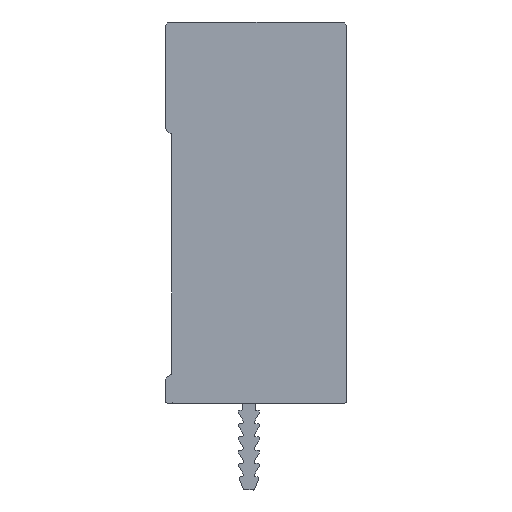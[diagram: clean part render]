
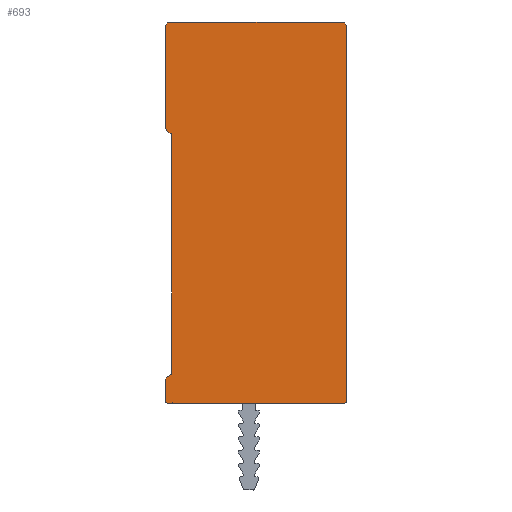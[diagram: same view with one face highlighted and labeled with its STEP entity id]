
A CAD part, left-side view. The second image highlights one B-rep face of the part: STEP entity #693.
In plain terms, the highlighted planar face has unit normal (-1, 0, 0).
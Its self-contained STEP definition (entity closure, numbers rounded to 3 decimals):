
#659 = VERTEX_POINT( '', #1926 );
#661 = VERTEX_POINT( '', #1928 );
#685 = EDGE_CURVE( '', #661, #877, #1955, .T. );
#693 = ADVANCED_FACE( '', ( #1963 ), #1964, .F. );
#711 = EDGE_CURVE( '', #909, #661, #1983, .T. );
#745 = EDGE_CURVE( '', #1227, #659, #2020, .T. );
#757 = VERTEX_POINT( '', #2032 );
#819 = VERTEX_POINT( '', #2100 );
#831 = EDGE_CURVE( '', #1085, #1227, #2113, .T. );
#861 = EDGE_CURVE( '', #819, #1525, #2146, .T. );
#877 = VERTEX_POINT( '', #2162 );
#895 = EDGE_CURVE( '', #1033, #909, #2181, .T. );
#909 = VERTEX_POINT( '', #2195 );
#929 = EDGE_CURVE( '', #1037, #1165, #2216, .T. );
#1033 = VERTEX_POINT( '', #2330 );
#1037 = VERTEX_POINT( '', #2335 );
#1059 = EDGE_CURVE( '', #1457, #1085, #2360, .T. );
#1085 = VERTEX_POINT( '', #2387 );
#1101 = EDGE_CURVE( '', #1165, #757, #2404, .T. );
#1165 = VERTEX_POINT( '', #2473 );
#1215 = EDGE_CURVE( '', #1781, #1037, #2525, .T. );
#1227 = VERTEX_POINT( '', #2538 );
#1291 = EDGE_CURVE( '', #1587, #1457, #2609, .T. );
#1321 = VERTEX_POINT( '', #2640 );
#1389 = EDGE_CURVE( '', #659, #1781, #2714, .T. );
#1405 = EDGE_CURVE( '', #1321, #819, #2730, .T. );
#1457 = VERTEX_POINT( '', #2784 );
#1525 = VERTEX_POINT( '', #2860 );
#1587 = VERTEX_POINT( '', #2928 );
#1691 = EDGE_CURVE( '', #757, #1321, #3041, .T. );
#1771 = EDGE_CURVE( '', #1525, #1033, #3129, .T. );
#1781 = VERTEX_POINT( '', #3140 );
#1825 = EDGE_CURVE( '', #877, #1587, #3186, .T. );
#1926 = CARTESIAN_POINT( '', ( 0., -11.75, -1.3 ) );
#1928 = CARTESIAN_POINT( '', ( 0., 9.35, 31.006 ) );
#1955 = CIRCLE( '', #3335, 0.8 );
#1963 = FACE_OUTER_BOUND( '', #3346, .T. );
#1964 = PLANE( '', #3347 );
#1983 = LINE( '', #3378, #3379 );
#2020 = LINE( '', #3425, #3426 );
#2032 = CARTESIAN_POINT( '', ( 0., 9.3, -1.5 ) );
#2100 = CARTESIAN_POINT( '', ( 0., 10.05, -1.3 ) );
#2113 = CIRCLE( '', #3548, 0.5 );
#2146 = LINE( '', #3593, #3594 );
#2162 = CARTESIAN_POINT( '', ( 0., 10.05, 31.8 ) );
#2181 = LINE( '', #3642, #3643 );
#2195 = CARTESIAN_POINT( '', ( 0., 9.35, 1.99 ) );
#2216 = CIRCLE( '', #3691, 0.2 );
#2330 = CARTESIAN_POINT( '', ( 0., 9.837, 1.649 ) );
#2335 = CARTESIAN_POINT( '', ( 0., 9.15, -1.5 ) );
#2360 = LINE( '', #3877, #3878 );
#2387 = CARTESIAN_POINT( '', ( 0., -11.25, 44.5 ) );
#2404 = CIRCLE( '', #3939, 0.2 );
#2473 = CARTESIAN_POINT( '', ( 0., 9.225, -1.485 ) );
#2525 = LINE( '', #4110, #4111 );
#2538 = CARTESIAN_POINT( '', ( 0., -11.75, 44. ) );
#2609 = CIRCLE( '', #4222, 0.5 );
#2640 = CARTESIAN_POINT( '', ( 0., 9.85, -1.5 ) );
#2714 = CIRCLE( '', #4372, 0.2 );
#2730 = CIRCLE( '', #4398, 0.2 );
#2784 = CARTESIAN_POINT( '', ( 0., 9.55, 44.5 ) );
#2860 = CARTESIAN_POINT( '', ( 0., 10.05, 1.24 ) );
#2928 = CARTESIAN_POINT( '', ( 0., 10.05, 44. ) );
#3041 = LINE( '', #4829, #4830 );
#3129 = CIRCLE( '', #4951, 0.5 );
#3140 = CARTESIAN_POINT( '', ( 0., -11.55, -1.5 ) );
#3186 = LINE( '', #5036, #5037 );
#3335 = AXIS2_PLACEMENT_3D( '', #5194, #5195, #5196 );
#3346 = EDGE_LOOP( '', ( #5202, #5203, #5204, #5205, #5206, #5207, #5208, #5209, #5210, #5211, #5212, #5213, #5214, #5215, #5216, #5217 ) );
#3347 = AXIS2_PLACEMENT_3D( '', #5218, #5219, #5220 );
#3378 = CARTESIAN_POINT( '', ( 0., 9.35, -1.3 ) );
#3379 = VECTOR( '', #5237, 1. );
#3425 = CARTESIAN_POINT( '', ( 0., -11.75, 44. ) );
#3426 = VECTOR( '', #5276, 1. );
#3548 = AXIS2_PLACEMENT_3D( '', #5382, #5383, #5384 );
#3593 = CARTESIAN_POINT( '', ( 0., 10.05, -1.3 ) );
#3594 = VECTOR( '', #5430, 1. );
#3642 = CARTESIAN_POINT( '', ( 0., 9.837, 1.649 ) );
#3643 = VECTOR( '', #5450, 1. );
#3691 = AXIS2_PLACEMENT_3D( '', #5470, #5471, #5472 );
#3877 = CARTESIAN_POINT( '', ( 0., 9.55, 44.5 ) );
#3878 = VECTOR( '', #5638, 1. );
#3939 = AXIS2_PLACEMENT_3D( '', #5678, #5679, #5680 );
#4110 = CARTESIAN_POINT( '', ( 0., -11.55, -1.5 ) );
#4111 = VECTOR( '', #5788, 1. );
#4222 = AXIS2_PLACEMENT_3D( '', #5890, #5891, #5892 );
#4372 = AXIS2_PLACEMENT_3D( '', #6001, #6002, #6003 );
#4398 = AXIS2_PLACEMENT_3D( '', #6011, #6012, #6013 );
#4829 = CARTESIAN_POINT( '', ( 0., 9.3, -1.5 ) );
#4830 = VECTOR( '', #6399, 1. );
#4951 = AXIS2_PLACEMENT_3D( '', #6551, #6552, #6553 );
#5036 = CARTESIAN_POINT( '', ( 0., 10.05, 31.8 ) );
#5037 = VECTOR( '', #6599, 1. );
#5194 = CARTESIAN_POINT( '', ( 0., 9.25, 31.8 ) );
#5195 = DIRECTION( '', ( 1., 0., 0. ) );
#5196 = DIRECTION( '', ( 0., -0.985, -0.174 ) );
#5202 = ORIENTED_EDGE( '', *, *, #895, .F. );
#5203 = ORIENTED_EDGE( '', *, *, #1771, .F. );
#5204 = ORIENTED_EDGE( '', *, *, #861, .F. );
#5205 = ORIENTED_EDGE( '', *, *, #1405, .F. );
#5206 = ORIENTED_EDGE( '', *, *, #1691, .F. );
#5207 = ORIENTED_EDGE( '', *, *, #1101, .F. );
#5208 = ORIENTED_EDGE( '', *, *, #929, .F. );
#5209 = ORIENTED_EDGE( '', *, *, #1215, .F. );
#5210 = ORIENTED_EDGE( '', *, *, #1389, .F. );
#5211 = ORIENTED_EDGE( '', *, *, #745, .F. );
#5212 = ORIENTED_EDGE( '', *, *, #831, .F. );
#5213 = ORIENTED_EDGE( '', *, *, #1059, .F. );
#5214 = ORIENTED_EDGE( '', *, *, #1291, .F. );
#5215 = ORIENTED_EDGE( '', *, *, #1825, .F. );
#5216 = ORIENTED_EDGE( '', *, *, #685, .F. );
#5217 = ORIENTED_EDGE( '', *, *, #711, .F. );
#5218 = CARTESIAN_POINT( '', ( 0., 0., 0. ) );
#5219 = DIRECTION( '', ( 1., 0., 0. ) );
#5220 = DIRECTION( '', ( 0., 0., -1. ) );
#5237 = DIRECTION( '', ( 0., 0., 1. ) );
#5276 = DIRECTION( '', ( 0., 0., -1. ) );
#5382 = CARTESIAN_POINT( '', ( 0., -11.25, 44. ) );
#5383 = DIRECTION( '', ( 1., 0., 0. ) );
#5384 = DIRECTION( '', ( 0., 0., 1. ) );
#5430 = DIRECTION( '', ( 0., 0., 1. ) );
#5450 = DIRECTION( '', ( 0., -0.819, 0.574 ) );
#5470 = CARTESIAN_POINT( '', ( 0., 9.15, -1.3 ) );
#5471 = DIRECTION( '', ( 1., 0., 0. ) );
#5472 = DIRECTION( '', ( 0., 0., -1. ) );
#5638 = DIRECTION( '', ( 0., -1., 0. ) );
#5678 = CARTESIAN_POINT( '', ( 0., 9.3, -1.3 ) );
#5679 = DIRECTION( '', ( 1., 0., 0. ) );
#5680 = DIRECTION( '', ( 0., -1., 0. ) );
#5788 = DIRECTION( '', ( 0., 1., 0. ) );
#5890 = CARTESIAN_POINT( '', ( 0., 9.55, 44. ) );
#5891 = DIRECTION( '', ( 1., 0., 0. ) );
#5892 = DIRECTION( '', ( 0., 1., 0. ) );
#6001 = CARTESIAN_POINT( '', ( 0., -11.55, -1.3 ) );
#6002 = DIRECTION( '', ( 1., 0., 0. ) );
#6003 = DIRECTION( '', ( 0., -1., 0. ) );
#6011 = CARTESIAN_POINT( '', ( 0., 9.85, -1.3 ) );
#6012 = DIRECTION( '', ( 1., 0., 0. ) );
#6013 = DIRECTION( '', ( 0., 0., -1. ) );
#6399 = DIRECTION( '', ( 0., 1., 0. ) );
#6551 = CARTESIAN_POINT( '', ( 0., 9.55, 1.24 ) );
#6552 = DIRECTION( '', ( 1., 0., 0. ) );
#6553 = DIRECTION( '', ( 0., 1., 0. ) );
#6599 = DIRECTION( '', ( 0., 0., 1. ) );
